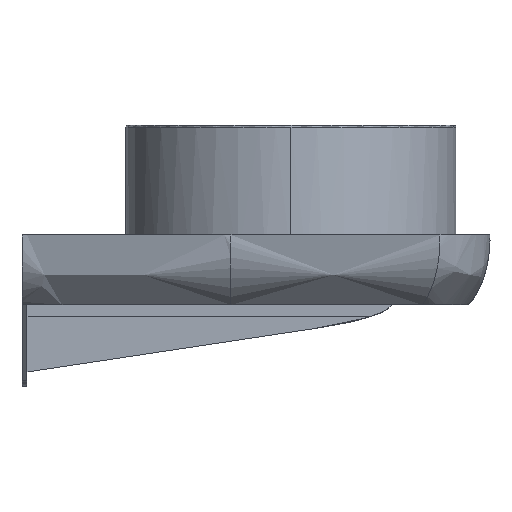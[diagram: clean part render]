
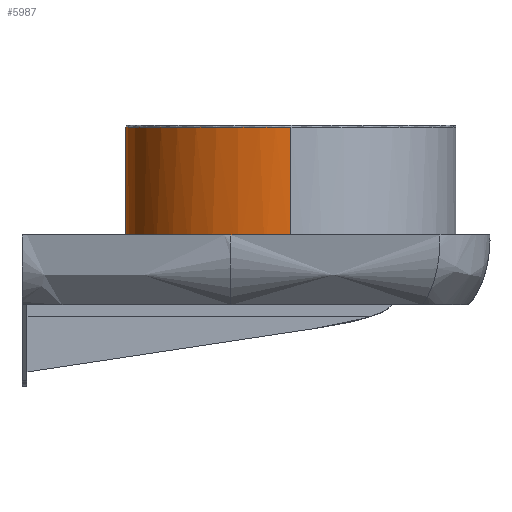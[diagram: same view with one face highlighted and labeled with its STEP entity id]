
A CAD part, left-side view. The second image highlights one B-rep face of the part: STEP entity #5987.
In plain terms, the highlighted free-form (B-spline) face has degree [5, 1] with [15, 2] control points.
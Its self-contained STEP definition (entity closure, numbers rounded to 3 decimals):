
#2012=(
BOUNDED_CURVE()
B_SPLINE_CURVE(2,(#154917,#154918,#154919),.UNSPECIFIED.,.F.,.F.)
B_SPLINE_CURVE_WITH_KNOTS((3,3),(646.254,969.382),
 .UNSPECIFIED.)
CURVE()
GEOMETRIC_REPRESENTATION_ITEM()
RATIONAL_B_SPLINE_CURVE((1.,0.707,1.))
REPRESENTATION_ITEM('')
);
#2028=(
BOUNDED_CURVE()
B_SPLINE_CURVE(2,(#155444,#155445,#155446),.UNSPECIFIED.,.F.,.F.)
B_SPLINE_CURVE_WITH_KNOTS((3,3),(-969.382,-646.254),
 .UNSPECIFIED.)
CURVE()
GEOMETRIC_REPRESENTATION_ITEM()
RATIONAL_B_SPLINE_CURVE((1.,0.707,1.))
REPRESENTATION_ITEM('')
);
#2035=(
BOUNDED_CURVE()
B_SPLINE_CURVE(5,(#155471,#155472,#155473,#155474,#155475,#155476),
 .UNSPECIFIED.,.F.,.F.)
B_SPLINE_CURVE_WITH_KNOTS((6,6),(0.,133.),.UNSPECIFIED.)
CURVE()
GEOMETRIC_REPRESENTATION_ITEM()
RATIONAL_B_SPLINE_CURVE((1.,1.,1.,1.,1.,1.))
REPRESENTATION_ITEM('')
);
#2036=(
BOUNDED_CURVE()
B_SPLINE_CURVE(5,(#155477,#155478,#155479,#155480,#155481,#155482),
 .UNSPECIFIED.,.F.,.F.)
B_SPLINE_CURVE_WITH_KNOTS((6,6),(0.,133.),.UNSPECIFIED.)
CURVE()
GEOMETRIC_REPRESENTATION_ITEM()
RATIONAL_B_SPLINE_CURVE((1.,1.,1.,1.,1.,1.))
REPRESENTATION_ITEM('')
);
#3894=B_SPLINE_SURFACE_WITH_KNOTS('',5,1,((#153021,#153022),(#153023,#153024),
(#153025,#153026),(#153027,#153028),(#153029,#153030),(#153031,#153032),
(#153033,#153034),(#153035,#153036),(#153037,#153038),(#153039,#153040),
(#153041,#153042),(#153043,#153044),(#153045,#153046),(#153047,#153048),
(#153049,#153050)),.UNSPECIFIED.,.F.,.F.,.F.,(6,3,3,3,6),(2,2),(626.867,
727.036,807.818,888.6,988.769),(256.168,
426.744),.UNSPECIFIED.);
#5987=ADVANCED_FACE('',(#8102),#3894,.T.);
#8102=FACE_OUTER_BOUND('',#10241,.T.);
#10241=EDGE_LOOP('',(#22229,#22230,#22231,#22232));
#22229=ORIENTED_EDGE('',*,*,#28421,.F.);
#22230=ORIENTED_EDGE('',*,*,#28429,.T.);
#22231=ORIENTED_EDGE('',*,*,#28377,.F.);
#22232=ORIENTED_EDGE('',*,*,#28428,.F.);
#28377=EDGE_CURVE('',#36473,#36471,#2012,.T.);
#28421=EDGE_CURVE('',#36502,#36501,#2028,.T.);
#28428=EDGE_CURVE('',#36501,#36473,#2035,.T.);
#28429=EDGE_CURVE('',#36502,#36471,#2036,.T.);
#36471=VERTEX_POINT('',#154518);
#36473=VERTEX_POINT('',#154520);
#36501=VERTEX_POINT('',#154548);
#36502=VERTEX_POINT('',#154549);
#153021=CARTESIAN_POINT('',(-164.427,-282.736,122.541));
#153022=CARTESIAN_POINT('',(-164.427,-282.736,-39.719));
#153023=CARTESIAN_POINT('',(-165.588,-268.834,122.541));
#153024=CARTESIAN_POINT('',(-165.588,-268.834,-39.719));
#153025=CARTESIAN_POINT('',(-165.338,-254.136,122.541));
#153026=CARTESIAN_POINT('',(-165.338,-254.136,-39.719));
#153027=CARTESIAN_POINT('',(-163.367,-238.839,122.541));
#153028=CARTESIAN_POINT('',(-163.367,-238.839,-39.719));
#153029=CARTESIAN_POINT('',(-156.196,-210.906,122.541));
#153030=CARTESIAN_POINT('',(-156.196,-210.906,-39.719));
#153031=CARTESIAN_POINT('',(-142.457,-184.12,122.541));
#153032=CARTESIAN_POINT('',(-142.457,-184.12,-39.719));
#153033=CARTESIAN_POINT('',(-135.003,-172.659,122.541));
#153034=CARTESIAN_POINT('',(-135.003,-172.659,-39.719));
#153035=CARTESIAN_POINT('',(-117.673,-151.327,122.541));
#153036=CARTESIAN_POINT('',(-117.673,-151.327,-39.719));
#153037=CARTESIAN_POINT('',(-96.341,-133.997,122.541));
#153038=CARTESIAN_POINT('',(-96.341,-133.997,-39.719));
#153039=CARTESIAN_POINT('',(-84.88,-126.543,122.541));
#153040=CARTESIAN_POINT('',(-84.88,-126.543,-39.719));
#153041=CARTESIAN_POINT('',(-58.094,-112.804,122.541));
#153042=CARTESIAN_POINT('',(-58.094,-112.804,-39.719));
#153043=CARTESIAN_POINT('',(-30.161,-105.633,122.541));
#153044=CARTESIAN_POINT('',(-30.161,-105.633,-39.719));
#153045=CARTESIAN_POINT('',(-14.864,-103.662,122.541));
#153046=CARTESIAN_POINT('',(-14.864,-103.662,-39.719));
#153047=CARTESIAN_POINT('',(-0.166,-103.412,122.541));
#153048=CARTESIAN_POINT('',(-0.166,-103.412,-39.719));
#153049=CARTESIAN_POINT('',(13.736,-104.573,122.541));
#153050=CARTESIAN_POINT('',(13.736,-104.573,-39.719));
#154518=CARTESIAN_POINT('',(0.,-104.,-25.089));
#154520=CARTESIAN_POINT('',(-165.,-269.,-25.089));
#154548=CARTESIAN_POINT('',(-165.,-269.,107.911));
#154549=CARTESIAN_POINT('',(0.,-104.,107.911));
#154917=CARTESIAN_POINT('',(-165.,-269.,-25.089));
#154918=CARTESIAN_POINT('',(-165.,-104.,-25.089));
#154919=CARTESIAN_POINT('',(0.,-104.,-25.089));
#155444=CARTESIAN_POINT('',(0.,-104.,107.911));
#155445=CARTESIAN_POINT('',(-165.,-104.,107.911));
#155446=CARTESIAN_POINT('',(-165.,-269.,107.911));
#155471=CARTESIAN_POINT('',(-165.,-269.,107.911));
#155472=CARTESIAN_POINT('',(-165.,-269.,81.311));
#155473=CARTESIAN_POINT('',(-165.,-269.,54.711));
#155474=CARTESIAN_POINT('',(-165.,-269.,28.111));
#155475=CARTESIAN_POINT('',(-165.,-269.,1.511));
#155476=CARTESIAN_POINT('',(-165.,-269.,-25.089));
#155477=CARTESIAN_POINT('',(0.,-104.,107.911));
#155478=CARTESIAN_POINT('',(0.,-104.,81.311));
#155479=CARTESIAN_POINT('',(0.,-104.,54.711));
#155480=CARTESIAN_POINT('',(0.,-104.,28.111));
#155481=CARTESIAN_POINT('',(0.,-104.,1.511));
#155482=CARTESIAN_POINT('',(0.,-104.,-25.089));
